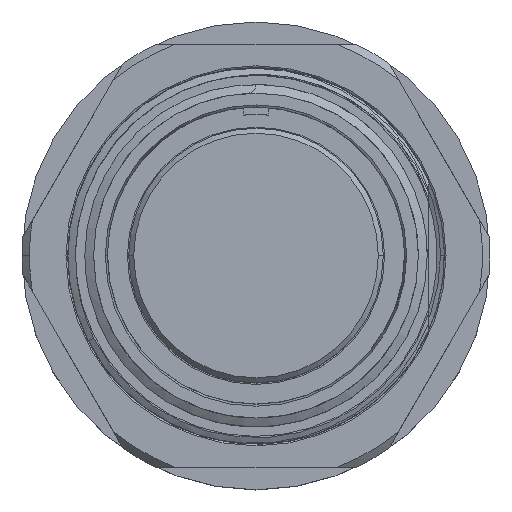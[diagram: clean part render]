
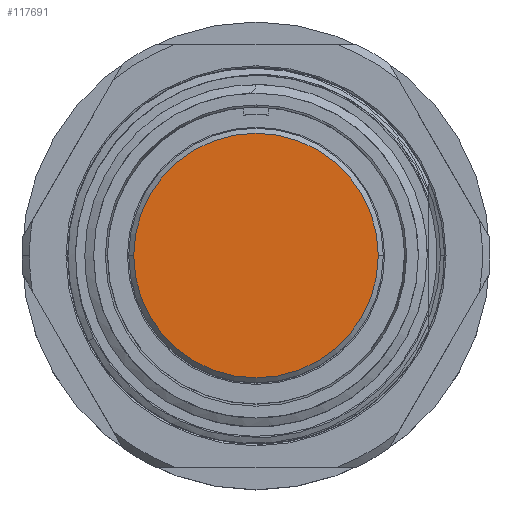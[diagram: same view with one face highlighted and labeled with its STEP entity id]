
A CAD part, top view. The second image highlights one B-rep face of the part: STEP entity #117691.
In plain terms, the highlighted planar face has unit normal (0, 0, 1).
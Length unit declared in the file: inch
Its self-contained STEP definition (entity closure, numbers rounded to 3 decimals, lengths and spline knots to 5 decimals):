
#2344 = DIRECTION ( 'NONE',  ( 0., 0., 1. ) ) ;
#10579 = AXIS2_PLACEMENT_3D ( 'NONE', #52096, #2344, #32308 ) ;
#12756 = CIRCLE ( 'NONE', #116644, 0.4875 ) ;
#15344 = CARTESIAN_POINT ( 'NONE',  ( -0.4875, 0., -0.018 ) ) ;
#18433 = CARTESIAN_POINT ( 'NONE',  ( 0.4875, 0., -0.018 ) ) ;
#21358 = CARTESIAN_POINT ( 'NONE',  ( 0., 0., -0.018 ) ) ;
#23253 = DIRECTION ( 'NONE',  ( 1., 0., 0. ) ) ;
#32308 = DIRECTION ( 'NONE',  ( 1., 0., 0. ) ) ;
#39226 = CARTESIAN_POINT ( 'NONE',  ( 0., 0., -0.018 ) ) ;
#43660 = ORIENTED_EDGE ( 'NONE', *, *, #110766, .T. ) ;
#45282 = CIRCLE ( 'NONE', #10579, 0.4875 ) ;
#47990 = EDGE_CURVE ( 'NONE', #114659, #124048, #12756, .T. ) ;
#52096 = CARTESIAN_POINT ( 'NONE',  ( 0., 0., -0.018 ) ) ;
#58367 = DIRECTION ( 'NONE',  ( 0., 0., 1. ) ) ;
#88955 = FACE_OUTER_BOUND ( 'NONE', #99782, .T. ) ;
#97236 = DIRECTION ( 'NONE',  ( 1., 0., 0. ) ) ;
#99026 = ORIENTED_EDGE ( 'NONE', *, *, #47990, .T. ) ;
#99782 = EDGE_LOOP ( 'NONE', ( #99026, #43660 ) ) ;
#99792 = DIRECTION ( 'NONE',  ( 0., 0., 1. ) ) ;
#108764 = PLANE ( 'NONE',  #120667 ) ;
#110766 = EDGE_CURVE ( 'NONE', #124048, #114659, #45282, .T. ) ;
#114659 = VERTEX_POINT ( 'NONE', #15344 ) ;
#116644 = AXIS2_PLACEMENT_3D ( 'NONE', #39226, #58367, #97236 ) ;
#117691 = ADVANCED_FACE ( 'NONE', ( #88955 ), #108764, .T. ) ;
#120667 = AXIS2_PLACEMENT_3D ( 'NONE', #21358, #99792, #23253 ) ;
#124048 = VERTEX_POINT ( 'NONE', #18433 ) ;
